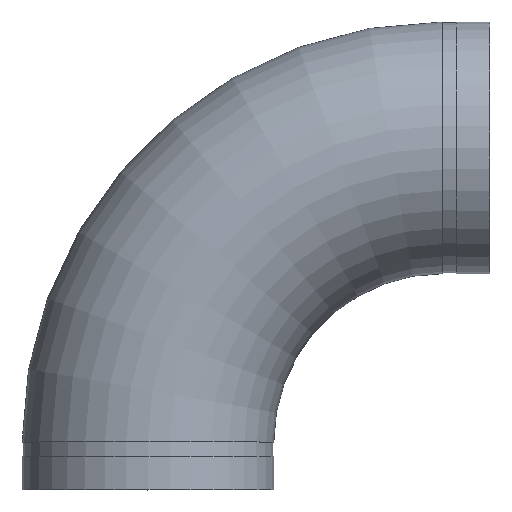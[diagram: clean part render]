
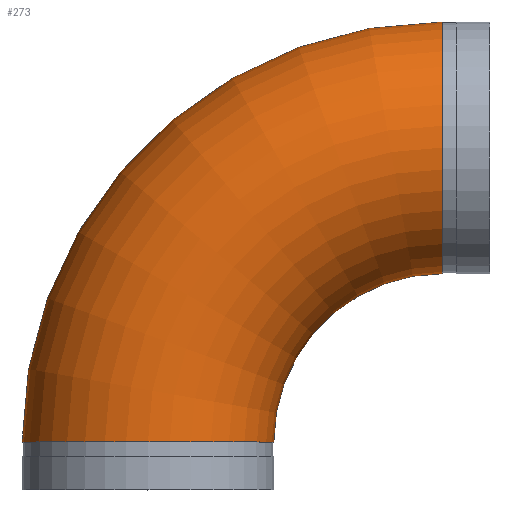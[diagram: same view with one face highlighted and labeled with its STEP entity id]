
A CAD part, top view. The second image highlights one B-rep face of the part: STEP entity #273.
In plain terms, the highlighted toroidal (fillet/blend) face has major radius 196.723 mm and minor radius 84.138 mm.
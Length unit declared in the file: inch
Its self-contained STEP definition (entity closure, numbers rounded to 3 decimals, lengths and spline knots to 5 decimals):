
#46=TOROIDAL_SURFACE('',#329,7.745,3.3125);
#81=FACE_OUTER_BOUND('',#99,.T.);
#99=EDGE_LOOP('',(#227,#228,#229,#230,#231,#232));
#105=CIRCLE('',#298,3.3125);
#106=CIRCLE('',#299,3.3125);
#117=CIRCLE('',#315,3.3125);
#118=CIRCLE('',#316,3.3125);
#127=CIRCLE('',#330,4.4325);
#129=VERTEX_POINT('',#460);
#130=VERTEX_POINT('',#461);
#141=VERTEX_POINT('',#491);
#142=VERTEX_POINT('',#492);
#151=EDGE_CURVE('',#129,#130,#105,.T.);
#152=EDGE_CURVE('',#130,#129,#106,.T.);
#165=EDGE_CURVE('',#141,#142,#117,.T.);
#166=EDGE_CURVE('',#142,#141,#118,.T.);
#178=EDGE_CURVE('',#142,#130,#127,.T.);
#227=ORIENTED_EDGE('',*,*,#165,.F.);
#228=ORIENTED_EDGE('',*,*,#166,.F.);
#229=ORIENTED_EDGE('',*,*,#178,.T.);
#230=ORIENTED_EDGE('',*,*,#152,.T.);
#231=ORIENTED_EDGE('',*,*,#151,.T.);
#232=ORIENTED_EDGE('',*,*,#178,.F.);
#273=ADVANCED_FACE('',(#81),#46,.T.);
#298=AXIS2_PLACEMENT_3D('',#462,#352,#353);
#299=AXIS2_PLACEMENT_3D('',#463,#354,#355);
#315=AXIS2_PLACEMENT_3D('',#493,#388,#389);
#316=AXIS2_PLACEMENT_3D('',#494,#390,#391);
#329=AXIS2_PLACEMENT_3D('',#517,#419,#420);
#330=AXIS2_PLACEMENT_3D('',#518,#421,#422);
#352=DIRECTION('center_axis',(-1.,0.,0.));
#353=DIRECTION('ref_axis',(0.,-1.,0.));
#354=DIRECTION('center_axis',(-1.,0.,0.));
#355=DIRECTION('ref_axis',(0.,-1.,0.));
#388=DIRECTION('center_axis',(0.,-1.,0.));
#389=DIRECTION('ref_axis',(1.,0.,0.));
#390=DIRECTION('center_axis',(0.,-1.,0.));
#391=DIRECTION('ref_axis',(1.,0.,0.));
#419=DIRECTION('center_axis',(0.,0.,1.));
#420=DIRECTION('ref_axis',(1.,0.,0.));
#421=DIRECTION('center_axis',(0.,0.,-1.));
#422=DIRECTION('ref_axis',(1.,0.,0.));
#460=CARTESIAN_POINT('',(7.745,12.3125,0.));
#461=CARTESIAN_POINT('',(7.745,5.6875,0.));
#462=CARTESIAN_POINT('Origin',(7.745,9.,0.));
#463=CARTESIAN_POINT('Origin',(7.745,9.,0.));
#491=CARTESIAN_POINT('',(-3.3125,1.255,0.));
#492=CARTESIAN_POINT('',(3.3125,1.255,0.));
#493=CARTESIAN_POINT('Origin',(0.,1.255,0.));
#494=CARTESIAN_POINT('Origin',(0.,1.255,0.));
#517=CARTESIAN_POINT('Origin',(7.745,1.255,0.));
#518=CARTESIAN_POINT('Origin',(7.745,1.255,0.));
